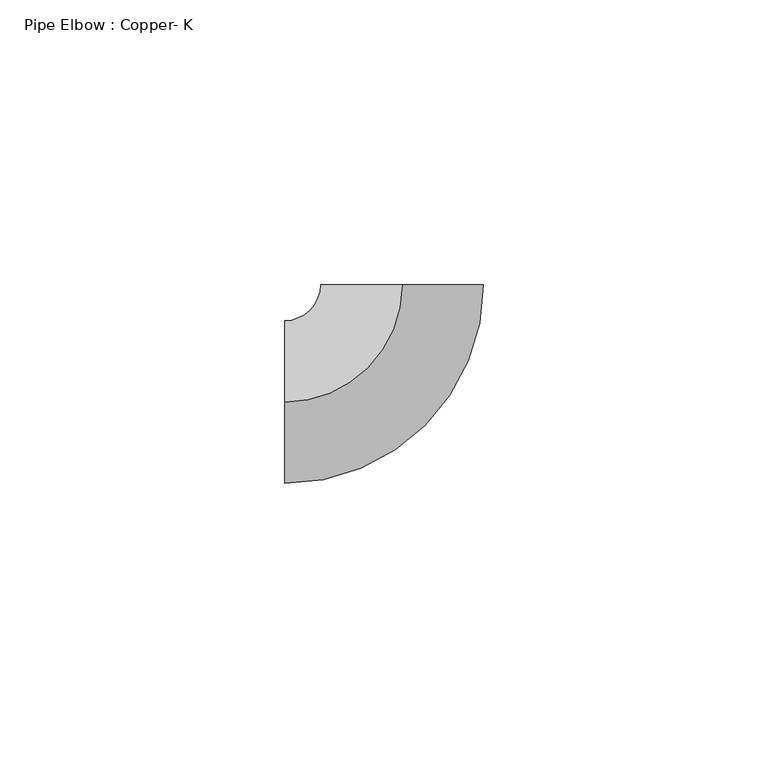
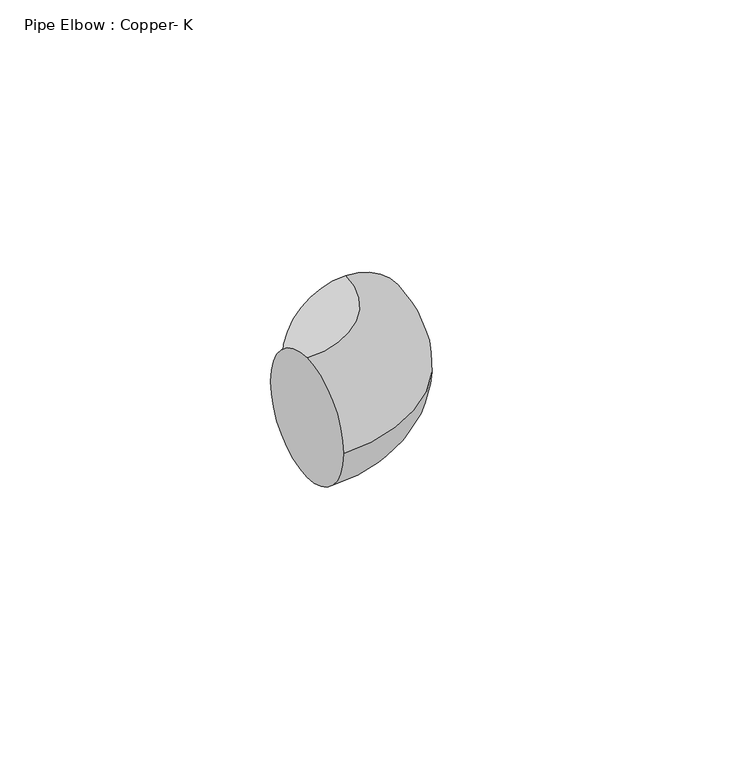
"""IFC4 building model written with IfcOpenShell, lengths in millimetres: pipe fitting geometry, Pipe Elbow : Copper- K."""

from ifc_helpers import new_model, si_unit, point, frame, origin, place, context, project, spatial, circle_curve, ellipse_curve, trimmed, source, transform, mapped, element, save
from ifc_brep_helpers import plane_surface, revolved_surface, advanced_brep


def pipe_elbow_copper_k_77fd4e2d(model_context):
    return source(origin(), model_context, "Body", "AdvancedBrep", [
        advanced_brep(
        [(-20.6358811, 0.0, 14.2875), (-20.6358811, 14.2875, 0.0), (-20.6358811, 0.0, -14.2875), (-20.6358811, -14.2875, 0.0), (0.0016188, 20.6358811, 14.2875), (14.2891188, 20.6347603, 0.0), (0.0016188, 20.6358811, -14.2875), (-14.2858811, 20.6370019, 0.0)],
        [
            (0, 1, circle_curve(frame((-20.6358811, 0.0, 0.0), z_axis=(-1.0, 0.0, 0.0), x_axis=(0.0, 1.0, 0.0)), 14.2875)),
            (1, 2, circle_curve(frame((-20.6358811, 0.0, 0.0), z_axis=(-1.0, 0.0, 0.0), x_axis=(0.0, 1.0, 0.0)), 14.2875)),
            (2, 3, circle_curve(frame((-20.6358811, 0.0, 0.0), z_axis=(-1.0, 0.0, 0.0), x_axis=(0.0, 1.0, 0.0)), 14.2875)),
            (3, 0, circle_curve(frame((-20.6358811, 0.0, 0.0), z_axis=(-1.0, 0.0, 0.0), x_axis=(0.0, 1.0, 0.0)), 14.2875)),
            (4, 5, circle_curve(frame((0.0016188, 20.6358811, 0.0), z_axis=(7.844655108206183e-05, 0.9999999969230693, 0.0), x_axis=(-0.9999999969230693, 7.844655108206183e-05, 0.0)), 14.2875)),
            (5, 6, circle_curve(frame((0.0016188, 20.6358811, 0.0), z_axis=(7.844655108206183e-05, 0.9999999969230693, 0.0), x_axis=(-0.9999999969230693, 7.844655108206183e-05, 0.0)), 14.2875)),
            (6, 7, circle_curve(frame((0.0016188, 20.6358811, 0.0), z_axis=(7.844655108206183e-05, 0.9999999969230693, 0.0), x_axis=(-0.9999999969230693, 7.844655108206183e-05, 0.0)), 14.2875)),
            (7, 4, circle_curve(frame((0.0016188, 20.6358811, 0.0), z_axis=(7.844655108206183e-05, 0.9999999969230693, 0.0), x_axis=(-0.9999999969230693, 7.844655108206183e-05, 0.0)), 14.2875)),
            (7, 1, circle_curve(frame((-20.6358811, 20.6375, 0.0), z_axis=(0.0, 0.0, -1.0), x_axis=(0.0, -1.0, 0.0)), 6.35)),
            (0, 4, circle_curve(frame((-20.6358811, 20.6375, 14.2875), z_axis=(0.0, 0.0, 1.0), x_axis=(0.0, -1.0, 0.0)), 20.6375)),
            (6, 2, circle_curve(frame((-20.6358811, 20.6375, -14.2875), z_axis=(0.0, 0.0, -1.0), x_axis=(0.0, -1.0, 0.0)), 20.6375)),
            (5, 3, circle_curve(frame((-20.6358811, 20.6375, 0.0), z_axis=(0.0, 0.0, -1.0), x_axis=(0.0, -1.0, 0.0)), 34.925)),
        ],
        [
            plane_surface(frame((-20.6358811, 0.0, 0.0), z_axis=(-1.0, 0.0, 0.0), x_axis=(0.0, 0.0, 1.0))),
            plane_surface(frame((0.0016188, 20.6358811, 0.0), z_axis=(7.844655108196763e-05, 0.9999999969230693, 0.0), x_axis=(0.0, 0.0, 1.0))),
            revolved_surface(trimmed(ellipse_curve(frame((-20.6358811, 0.0, 0.0), z_axis=(-1.0, 0.0, 0.0), x_axis=(0.0, 1.0, 0.0)), 14.2875, 14.2875), [point((-20.6358811, 0.0, 14.2875))], [point((-20.6358811, 14.2875, 0.0))], True, "CARTESIAN"), (-20.6358811, 20.6375, 0.0), (0.0, 0.0, 1.0)),
            revolved_surface(trimmed(ellipse_curve(frame((-20.6358811, 0.0, 0.0), z_axis=(-1.0, 0.0, 0.0), x_axis=(0.0, 1.0, 0.0)), 14.2875, 14.2875), [point((-20.6358811, 14.2875, 0.0))], [point((-20.6358811, 0.0, -14.2875))], True, "CARTESIAN"), (-20.6358811, 20.6375, 0.0), (0.0, 0.0, 1.0)),
            revolved_surface(trimmed(ellipse_curve(frame((-20.6358811, 0.0, 0.0), z_axis=(-1.0, 0.0, 0.0), x_axis=(0.0, 1.0, 0.0)), 14.2875, 14.2875), [point((-20.6358811, 0.0, -14.2875))], [point((-20.6358811, -14.2875, 0.0))], True, "CARTESIAN"), (-20.6358811, 20.6375, 0.0), (0.0, 0.0, 1.0)),
            revolved_surface(trimmed(ellipse_curve(frame((-20.6358811, 0.0, 0.0), z_axis=(-1.0, 0.0, 0.0), x_axis=(0.0, 1.0, 0.0)), 14.2875, 14.2875), [point((-20.6358811, -14.2875, 0.0))], [point((-20.6358811, 0.0, 14.2875))], True, "CARTESIAN"), (-20.6358811, 20.6375, 0.0), (0.0, 0.0, 1.0)),
        ],
        [
            (0, [[1, 2, 3, 4]]),
            (1, [[5, 6, 7, 8]]),
            (2, [[9, -1, 10, -8]]),
            (3, [[11, -2, -9, -7]]),
            (4, [[12, -3, -11, -6]]),
            (5, [[-10, -4, -12, -5]]),
        ],
    ),
        advanced_brep(
        [(-20.6358811, 0.0, 14.2875), (-20.6358811, 14.2875, 0.0), (-20.6358811, 0.0, -14.2875), (-20.6358811, -14.2875, 0.0), (0.0016188, 20.6358811, 14.2875), (14.2891188, 20.6347603, 0.0), (0.0016188, 20.6358811, -14.2875), (-14.2858811, 20.6370019, 0.0)],
        [
            (0, 1, circle_curve(frame((-20.6358811, 0.0, 0.0), z_axis=(-1.0, 0.0, 0.0), x_axis=(0.0, 1.0, 0.0)), 14.2875)),
            (1, 2, circle_curve(frame((-20.6358811, 0.0, 0.0), z_axis=(-1.0, 0.0, 0.0), x_axis=(0.0, 1.0, 0.0)), 14.2875)),
            (2, 3, circle_curve(frame((-20.6358811, 0.0, 0.0), z_axis=(-1.0, 0.0, 0.0), x_axis=(0.0, 1.0, 0.0)), 14.2875)),
            (3, 0, circle_curve(frame((-20.6358811, 0.0, 0.0), z_axis=(-1.0, 0.0, 0.0), x_axis=(0.0, 1.0, 0.0)), 14.2875)),
            (4, 5, circle_curve(frame((0.0016188, 20.6358811, 0.0), z_axis=(7.844655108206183e-05, 0.9999999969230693, 0.0), x_axis=(-0.9999999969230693, 7.844655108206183e-05, 0.0)), 14.2875)),
            (5, 6, circle_curve(frame((0.0016188, 20.6358811, 0.0), z_axis=(7.844655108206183e-05, 0.9999999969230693, 0.0), x_axis=(-0.9999999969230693, 7.844655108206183e-05, 0.0)), 14.2875)),
            (6, 7, circle_curve(frame((0.0016188, 20.6358811, 0.0), z_axis=(7.844655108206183e-05, 0.9999999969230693, 0.0), x_axis=(-0.9999999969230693, 7.844655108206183e-05, 0.0)), 14.2875)),
            (7, 4, circle_curve(frame((0.0016188, 20.6358811, 0.0), z_axis=(7.844655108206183e-05, 0.9999999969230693, 0.0), x_axis=(-0.9999999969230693, 7.844655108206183e-05, 0.0)), 14.2875)),
            (7, 1, circle_curve(frame((-20.6358811, 20.6375, 0.0), z_axis=(0.0, 0.0, -1.0), x_axis=(0.0, -1.0, 0.0)), 6.35)),
            (0, 4, circle_curve(frame((-20.6358811, 20.6375, 14.2875), z_axis=(0.0, 0.0, 1.0), x_axis=(0.0, -1.0, 0.0)), 20.6375)),
            (6, 2, circle_curve(frame((-20.6358811, 20.6375, -14.2875), z_axis=(0.0, 0.0, -1.0), x_axis=(0.0, -1.0, 0.0)), 20.6375)),
            (5, 3, circle_curve(frame((-20.6358811, 20.6375, 0.0), z_axis=(0.0, 0.0, -1.0), x_axis=(0.0, -1.0, 0.0)), 34.925)),
        ],
        [
            plane_surface(frame((-20.6358811, 0.0, 0.0), z_axis=(-1.0, 0.0, 0.0), x_axis=(0.0, 0.0, 1.0))),
            plane_surface(frame((0.0016188, 20.6358811, 0.0), z_axis=(7.844655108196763e-05, 0.9999999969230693, 0.0), x_axis=(0.0, 0.0, 1.0))),
            revolved_surface(trimmed(ellipse_curve(frame((-20.6358811, 0.0, 0.0), z_axis=(-1.0, 0.0, 0.0), x_axis=(0.0, 1.0, 0.0)), 14.2875, 14.2875), [point((-20.6358811, 0.0, 14.2875))], [point((-20.6358811, 14.2875, 0.0))], True, "CARTESIAN"), (-20.6358811, 20.6375, 0.0), (0.0, 0.0, 1.0)),
            revolved_surface(trimmed(ellipse_curve(frame((-20.6358811, 0.0, 0.0), z_axis=(-1.0, 0.0, 0.0), x_axis=(0.0, 1.0, 0.0)), 14.2875, 14.2875), [point((-20.6358811, 14.2875, 0.0))], [point((-20.6358811, 0.0, -14.2875))], True, "CARTESIAN"), (-20.6358811, 20.6375, 0.0), (0.0, 0.0, 1.0)),
            revolved_surface(trimmed(ellipse_curve(frame((-20.6358811, 0.0, 0.0), z_axis=(-1.0, 0.0, 0.0), x_axis=(0.0, 1.0, 0.0)), 14.2875, 14.2875), [point((-20.6358811, 0.0, -14.2875))], [point((-20.6358811, -14.2875, 0.0))], True, "CARTESIAN"), (-20.6358811, 20.6375, 0.0), (0.0, 0.0, 1.0)),
            revolved_surface(trimmed(ellipse_curve(frame((-20.6358811, 0.0, 0.0), z_axis=(-1.0, 0.0, 0.0), x_axis=(0.0, 1.0, 0.0)), 14.2875, 14.2875), [point((-20.6358811, -14.2875, 0.0))], [point((-20.6358811, 0.0, 14.2875))], True, "CARTESIAN"), (-20.6358811, 20.6375, 0.0), (0.0, 0.0, 1.0)),
        ],
        [
            (0, [[1, 2, 3, 4]]),
            (1, [[5, 6, 7, 8]]),
            (2, [[9, -1, 10, -8]]),
            (3, [[11, -2, -9, -7]]),
            (4, [[12, -3, -11, -6]]),
            (5, [[-10, -4, -12, -5]]),
        ],
    ),
    ])


if __name__ == "__main__":
    model = new_model("IFC4")
    model_context = context("Model", 3, world=origin())
    ifc_project = project(units=[si_unit("LENGTHUNIT", "METRE", prefix="MILLI")], contexts=[model_context])
    site = spatial("IfcSite", under=ifc_project)
    building = spatial("IfcBuilding", under=site)
    placement = place(None, origin())
    pipe_elbow_copper_k_shape = pipe_elbow_copper_k_77fd4e2d(model_context)
    element("IfcPipeFitting", 1, ObjectType="Pipe Elbow : Copper- K", at=placement, inside=building, context=model_context, shape_type="MappedRepresentation", body=[
        mapped(pipe_elbow_copper_k_shape, transform((0.0, 0.0, 0.0), x_axis=(1.0, 0.0, 0.0), y_axis=(0.0, 1.0, 0.0), z_axis=(0.0, 0.0, 1.0))),
    ])
    save(model, "model.ifc")
